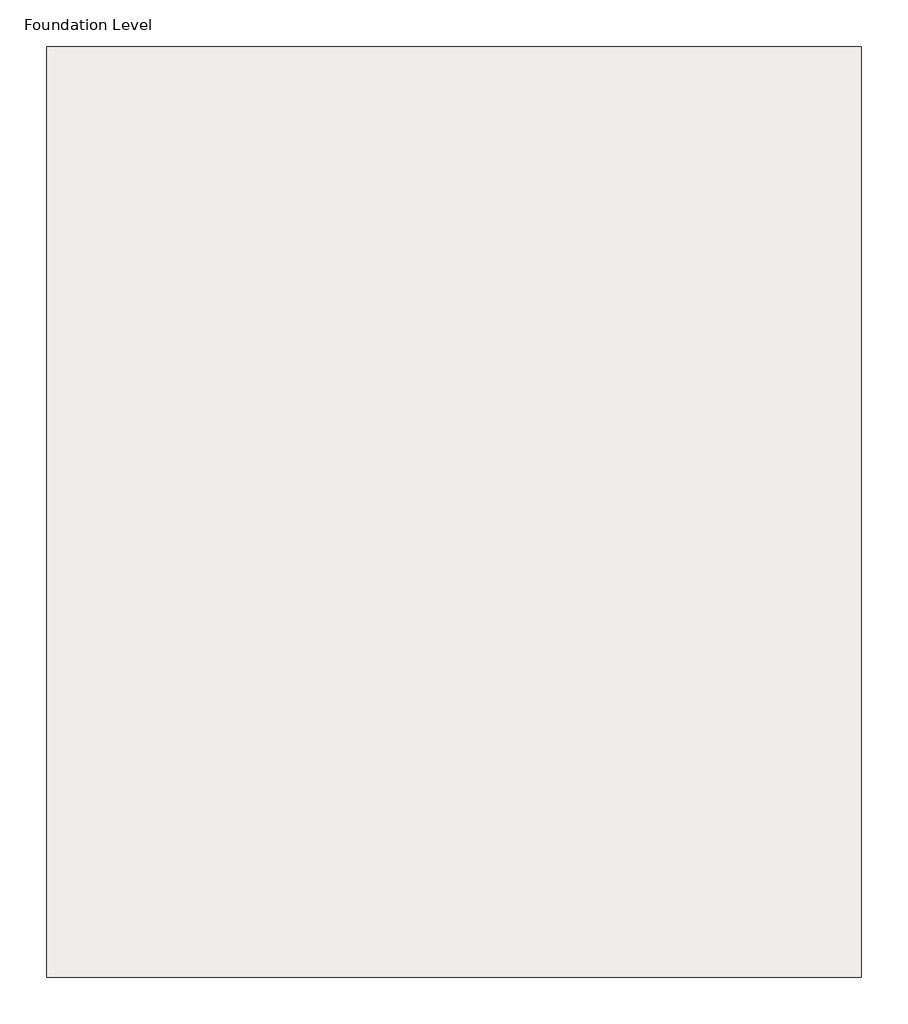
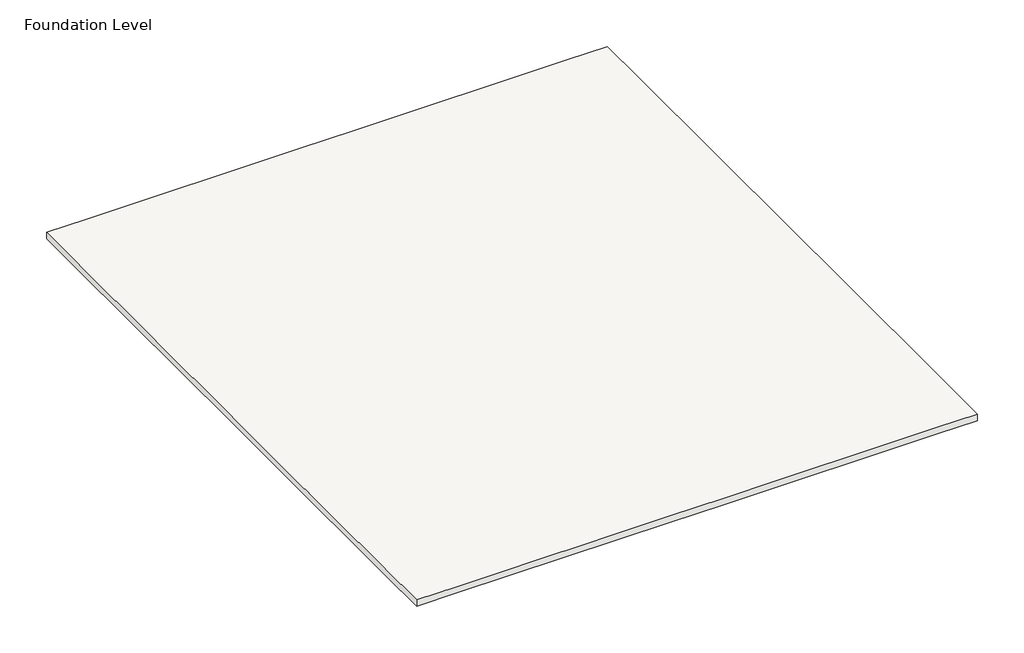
# One storey: 1 slab.
"""IFC4 building model written with IfcOpenShell, lengths in millimetres."""

import ifcopenshell
import ifcopenshell.guid

model = None  # the IFC model being written
_history = None  # IfcOwnerHistory: only IFC2X3 demands one
_inside = {}  # id of a spatial element -> (the spatial element, [elements in it])
_under = {}  # id of a project, library or spatial element -> (it, [spatial elements below it])
_declared = {}  # id of a project -> (the project, [libraries it declares])
_typed = {}  # id of a type object -> (the type object, [elements of that type])
_made_of = {}  # id of a material, layer set ... -> (it, [elements and type objects made of it])


def new_model(schema):
    """Start an empty IFC model of exactly this schema.

    Asked for "IFC4X3", IfcOpenShell would pick the latest addendum, in which some entities
    have other attributes; the version numbers below select the first issue.
    IFC2X3 requires an IfcOwnerHistory on every rooted entity: one is made here for all.
    """
    global model, _history
    if schema == "IFC4X3":
        model = ifcopenshell.file(schema_version=(4, 3, 0, 0))
    else:
        model = ifcopenshell.file(schema=schema)
    _inside.clear()
    _under.clear()
    _declared.clear()
    _typed.clear()
    _made_of.clear()
    _history = None
    if model.schema == "IFC2X3":
        org = make("IfcOrganization", Name="unknown")
        user = make(
            "IfcPersonAndOrganization",
            ThePerson=make("IfcPerson", FamilyName="unknown"),
            TheOrganization=org,
        )
        app = make(
            "IfcApplication",
            ApplicationDeveloper=org,
            Version="unknown",
            ApplicationFullName="unknown",
            ApplicationIdentifier="unknown",
        )
        _history = make(
            "IfcOwnerHistory",
            OwningUser=user,
            OwningApplication=app,
            ChangeAction="ADDED",
            CreationDate=0,
        )
    return model


def make(cls, **values):
    """One entity of the class cls with the attributes given. An attribute that is None is left unset."""
    return model.create_entity(
        cls, **{name: value for name, value in values.items() if value is not None}
    )


def rooted(cls, **values):
    """An entity with a GlobalId (a new one), such as an element, a storey or a relation."""
    return make(cls, GlobalId=ifcopenshell.guid.new(), OwnerHistory=_history, **values)


def si_unit(unit_type, name, prefix=None):
    """IfcSIUnit, for example si_unit("LENGTHUNIT", "METRE", prefix="MILLI")."""
    return make("IfcSIUnit", UnitType=unit_type, Prefix=prefix, Name=name)


def assignment(units):
    """IfcUnitAssignment: the units of a project."""
    return None if units is None else make("IfcUnitAssignment", Units=units)


def point(xyz):
    """IfcCartesianPoint."""
    return None if xyz is None else make("IfcCartesianPoint", Coordinates=xyz)


def direction(xyz):
    """IfcDirection."""
    return None if xyz is None else make("IfcDirection", DirectionRatios=xyz)


def frame(location, z_axis=None, x_axis=None):
    """IfcAxis2Placement3D, a coordinate frame: its origin and axes. An axis left out is left unset."""
    return make(
        "IfcAxis2Placement3D",
        Location=point(location),
        Axis=direction(z_axis),
        RefDirection=direction(x_axis),
    )


def origin():
    """The frame at (0, 0, 0) with its axes left unset."""
    return frame((0.0, 0.0, 0.0))


def place(relative_to, where):
    """IfcLocalPlacement: puts the frame where relative to a parent placement (None: the world)."""
    return make(
        "IfcLocalPlacement", PlacementRelTo=relative_to, RelativePlacement=where
    )


def context(
    kind, dimensions, precision=None, world=None, true_north=None, identifier=None
):
    """IfcGeometricRepresentationContext, for example the 3D "Model" context."""
    return make(
        "IfcGeometricRepresentationContext",
        ContextIdentifier=identifier,
        ContextType=kind,
        CoordinateSpaceDimension=dimensions,
        Precision=precision,
        WorldCoordinateSystem=world,
        TrueNorth=true_north,
    )


def project(units=None, contexts=None):
    """IfcProject with its units and contexts."""
    return rooted(
        "IfcProject",
        Name="project",
        RepresentationContexts=contexts,
        UnitsInContext=assignment(units),
    )


def spatial(cls, under=None, at=None, **own):
    """A site, building, storey or space (cls), placed at a placement, below another one or the project."""
    s = rooted(cls, ObjectPlacement=at, **own)
    if under is not None:
        _under.setdefault(under.id(), (under, []))[1].append(s)
    return s


def faces_of(points, faces, orient=None, outer=None):
    """IfcFace entities. A face is a list of loops; a loop is a list of indices into points, from 0.

    orient and outer hold one flag for each loop. By default every Orientation is true, the
    first loop of a face is its IfcFaceOuterBound and the others are IfcFaceBound.
    """
    made = []
    for i, loops in enumerate(faces):
        bounds = []
        for j, loop in enumerate(loops):
            is_outer = j == 0 if outer is None else outer[i][j]
            bounds.append(
                make(
                    "IfcFaceOuterBound" if is_outer else "IfcFaceBound",
                    Bound=make("IfcPolyLoop", Polygon=[points[k] for k in loop]),
                    Orientation=True if orient is None else orient[i][j],
                )
            )
        made.append(make("IfcFace", Bounds=bounds))
    return made


def faceted_brep(points, faces, orient=None, outer=None, voids=None):
    """IfcFacetedBrep: a solid bounded by flat faces; with voids (closed shells), ...WithVoids."""
    shared = [point(p) for p in points]
    hull = make("IfcClosedShell", CfsFaces=faces_of(shared, faces, orient, outer))
    if voids is None:
        return make("IfcFacetedBrep", Outer=hull)
    return make(
        "IfcFacetedBrepWithVoids",
        Outer=hull,
        Voids=[
            make(cls, CfsFaces=faces_of(shared, fs, o, b)) for cls, fs, o, b in voids
        ],
    )


def shape(context_of_items, identifier, shape_type, items):
    """IfcShapeRepresentation: the items that make up one representation, for example the "Body"."""
    return make(
        "IfcShapeRepresentation",
        ContextOfItems=context_of_items,
        RepresentationIdentifier=identifier,
        RepresentationType=shape_type,
        Items=items,
    )


def made_of(thing, what):
    """Note that an element or type object is made of a material, layer set ...; save() writes the relation."""
    if what is not None:
        _made_of.setdefault(what.id(), (what, []))[1].append(thing)
    return thing


def element(
    cls,
    number,
    at=None,
    inside=None,
    cuts=None,
    type_object=None,
    material=None,
    context=None,
    identifier="Body",
    shape_type=None,
    held_by="IfcProductDefinitionShape",
    body=None,
    shapes=None,
    **own,
):
    """One element of the class cls, such as IfcWall. Its Tag is "e" and its number.

    at: its placement. inside: the storey or other place that contains it. cuts: it is an
    opening in that element (IfcRelVoidsElement). A single representation is given by context,
    identifier, shape_type and body (its items); several are given by shapes. held_by: the class
    of the entity that holds the representations. save() writes the other relations.
    """
    e = rooted(cls, Tag="e%d" % number, ObjectPlacement=at, **own)
    if body is not None:
        shapes = [shape(context, identifier, shape_type, body)]
    if shapes is not None:
        e.Representation = make(held_by, Representations=shapes)
    if inside is not None:
        _inside.setdefault(inside.id(), (inside, []))[1].append(e)
    if cuts is not None:
        rooted(
            "IfcRelVoidsElement", RelatingBuildingElement=cuts, RelatedOpeningElement=e
        )
    if type_object is not None:
        _typed.setdefault(type_object.id(), (type_object, []))[1].append(e)
    return made_of(e, material)


def aggregate(whole, parts):
    """IfcRelAggregates: a whole, such as a stair, and the parts it consists of."""
    return rooted("IfcRelAggregates", RelatingObject=whole, RelatedObjects=parts)


def save(model, path):
    """Write the relations noted so far, then the file.

    IfcRelAggregates (storeys below a building ...), IfcRelContainedInSpatialStructure (elements
    in a storey), IfcRelDefinesByType, IfcRelAssociatesMaterial and IfcRelDeclares: one each for
    every whole, place, type object, material and project.
    """
    for whole, parts in _under.values():
        aggregate(whole, parts)
    for where, things in _inside.values():
        rooted(
            "IfcRelContainedInSpatialStructure",
            RelatedElements=things,
            RelatingStructure=where,
        )
    for kind, things in _typed.values():
        rooted("IfcRelDefinesByType", RelatedObjects=things, RelatingType=kind)
    for what, things in _made_of.values():
        rooted("IfcRelAssociatesMaterial", RelatedObjects=things, RelatingMaterial=what)
    for by, libraries in _declared.values():
        rooted("IfcRelDeclares", RelatingContext=by, RelatedDefinitions=libraries)
    model.write(path)


model = new_model("IFC4")

# Units and contexts
model_context = context("Model", 3, world=origin())
ifc_project = project(units=[si_unit("LENGTHUNIT", "METRE", prefix="MILLI")], contexts=[model_context])

# Site, building, storey
site = spatial("IfcSite", under=ifc_project)
building = spatial("IfcBuilding", under=site)
storey = spatial("IfcBuildingStorey", under=building, Name="Foundation Level", Elevation=-1828.8)

# Slab
placement = place(None, origin())
element("IfcSlab", 1, ObjectType="6\" Foundation Slab", at=placement, inside=storey, context=model_context, shape_type="Brep", body=[
    faceted_brep([(-26198.2357458, 10612.3034229, -1981.2), (-26198.2357458, 9393.1034229, -1981.2), (-26198.2357458, 3297.1034229, -1981.2), (-26198.2357458, 1468.3034229, -1981.2), (-26198.2357458, -2798.8965771, -1981.2), (-26198.2357458, -4018.0965771, -1981.2), (-27112.6357458, -4018.0965771, -1981.2), (-31989.4357458, -4018.0965771, -1981.2), (-33208.6357458, -4018.0965771, -1981.2), (-38085.4357458, -4018.0965771, -1981.2), (-38999.8357458, -4018.0965771, -1981.2), (-38999.8357458, -2798.8965771, -1981.2), (-38999.8357458, 1468.3034229, -1981.2), (-38999.8357458, 3297.1034229, -1981.2), (-38999.8357458, 9393.1034229, -1981.2), (-38999.8357458, 10612.3034229, -1981.2), (-38085.4357458, 10612.3034229, -1981.2), (-33208.6357458, 10612.3034229, -1981.2), (-31989.4357458, 10612.3034229, -1981.2), (-27112.6357458, 10612.3034229, -1981.2), (-26198.2357458, 10612.3034229, -1828.8), (-27112.6357458, 10612.3034229, -1828.8), (-31989.4357458, 10612.3034229, -1828.8), (-33208.6357458, 10612.3034229, -1828.8), (-38085.4357458, 10612.3034229, -1828.8), (-38999.8357458, 10612.3034229, -1828.8), (-38999.8357458, 9393.1034229, -1828.8), (-38999.8357458, 3297.1034229, -1828.8), (-38999.8357458, 1468.3034229, -1828.8), (-38999.8357458, -2798.8965771, -1828.8), (-38999.8357458, -4018.0965771, -1828.8), (-38085.4357458, -4018.0965771, -1828.8), (-33208.6357458, -4018.0965771, -1828.8), (-31989.4357458, -4018.0965771, -1828.8), (-27112.6357458, -4018.0965771, -1828.8), (-26198.2357458, -4018.0965771, -1828.8), (-26198.2357458, -2798.8965771, -1828.8), (-26198.2357458, 1468.3034229, -1828.8), (-26198.2357458, 3297.1034229, -1828.8), (-26198.2357458, 9393.1034229, -1828.8)], [[[0, 1, 2, 3, 4, 5, 6, 7, 8, 9, 10, 11, 12, 13, 14, 15, 16, 17, 18, 19]], [[20, 21, 22, 23, 24, 25, 26, 27, 28, 29, 30, 31, 32, 33, 34, 35, 36, 37, 38, 39]], [[5, 4, 3, 2, 1, 0, 20, 39, 38, 37, 36, 35]], [[10, 9, 8, 7, 6, 5, 35, 34, 33, 32, 31, 30]], [[15, 14, 13, 12, 11, 10, 30, 29, 28, 27, 26, 25]], [[0, 19, 18, 17, 16, 15, 25, 24, 23, 22, 21, 20]]]),
])

save(model, "model.ifc")
